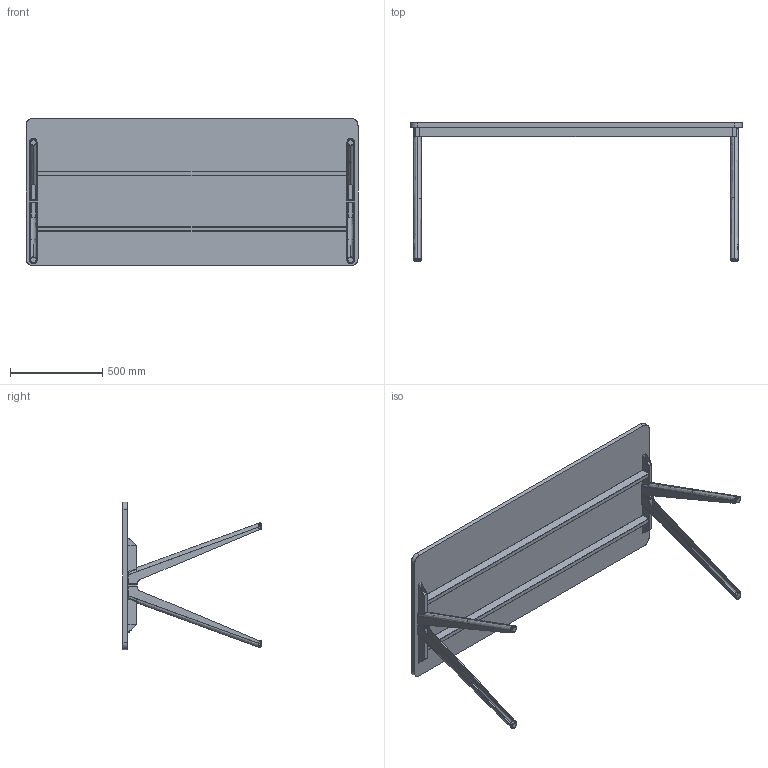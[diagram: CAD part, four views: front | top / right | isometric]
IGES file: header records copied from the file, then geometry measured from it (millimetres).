
Start section: SolidWorks IGES file using analytic representation for surfaces
Global section: file name: C:\Users\simone.cerana\OneDrive - Gruppo Tecno\Desktop\CHINA\DISEGNI DI SERIE\ASSIEMI LISTINO\HORIZON LISTINO\HO1808ST.IGS; native system: SolidWorks 2024; preprocessor: SolidWorks 2024; author: simone.cerana; date: 260508.123850; units: millimetre
Bounding box: 1800 x 749.83 x 800 mm (x, y, z)
Surface area: 4244826.7 mm2 (no closed solid volume)
Topology: 0 solids, 0 shells, 252 faces, 3496 edges, 3496 vertices
Faces by surface type: bspline 166, revolution 86
